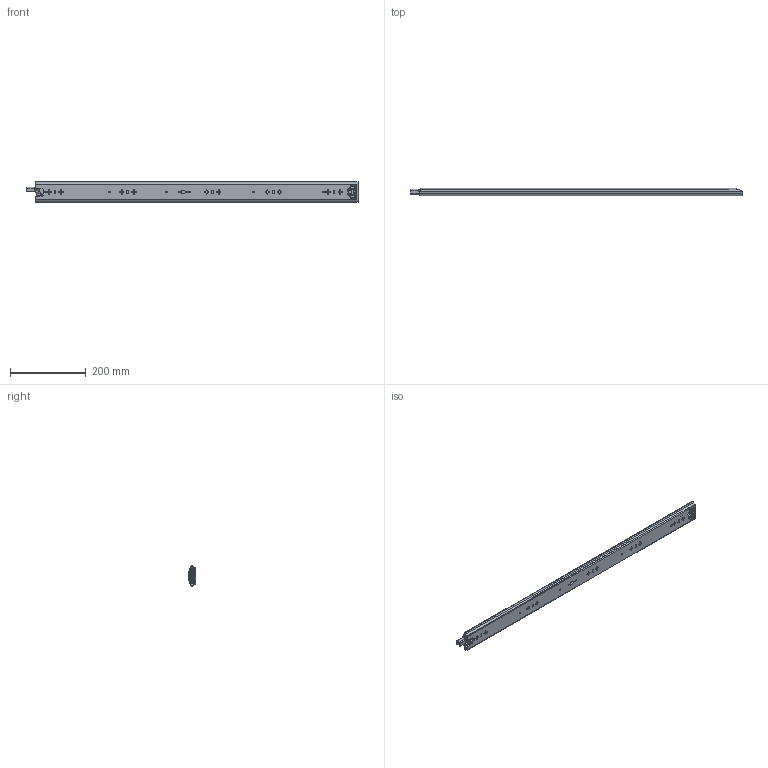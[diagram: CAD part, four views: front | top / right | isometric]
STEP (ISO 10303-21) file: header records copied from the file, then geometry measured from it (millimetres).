
FILE_DESCRIPTION((''),'2;1');
FILE_NAME('1053-3S-34YOU_ASM','2023-04-12T',('jishu015'),(''),'PRO/ENGINEER BY PARAMETRIC TECHNOLOGY CORPORATION, 2010280','PRO/ENGINEER BY PARAMETRIC TECHNOLOGY CORPORATION, 2010280','');
FILE_SCHEMA(('CONFIG_CONTROL_DESIGN'));
Products named in the file (20): 1053-02-18WAIKE____________; 1053WEIJIAO____________; 1053-3S-24WAIKE_____________ASM; 1053ZHUTIAO-175____________; 53-5-6GANZHU____________; 1053ZHUTIAO-175MM_____________ASM; 1053-02-18ZHONGGUI____________; ZHONGGUIPEIJIAN__________; ZHONGGUISUOKOU__________; 1053-02-18ZHONGGUI_____________ASM; 1053XIAOZHUJIA-14GE____________; 1053XIAOZHUJIA-14GE_____________ASM; 1053-02-18NEIGUI____________; DAOPIAN________; PIAN________; 1053-3SBANJI123_______; JIAO-11_______; 50XINSUOKOU11______; 1053-02-18NEIGUI_____________ASM; 1053-3S-34YOU_ASM
Assembly tree (94 placements, depth 3):
  1053-3S-34YOU_ASM
    1053-3S-24WAIKE_____________ASM
      1053-02-18WAIKE____________
      1053WEIJIAO____________
    1053ZHUTIAO-175MM_____________ASM  x2
      1053ZHUTIAO-175____________
      53-5-6GANZHU____________
    1053-02-18ZHONGGUI_____________ASM
      1053-02-18ZHONGGUI____________
      ZHONGGUIPEIJIAN__________
      ZHONGGUISUOKOU__________
    1053XIAOZHUJIA-14GE_____________ASM
      1053XIAOZHUJIA-14GE____________
      53-5-6GANZHU____________  x60
    1053-02-18NEIGUI_____________ASM
      1053-02-18NEIGUI____________
      DAOPIAN________
      PIAN________
      1053-3SBANJI123_______
      JIAO-11_______
      50XINSUOKOU11______
Bounding box: 875.42 x 18.7 x 53 mm (x, y, z)
Volume: 324008.6 mm3; surface area: 375624.9 mm2
Topology: 105 solids, 105 shells, 2652 faces, 7684 edges, 4797 vertices
Faces by surface type: cylinder 1156, plane 1066, sphere 188, bspline 117, cone 86, extrusion 23, torus 16
Entity records: 85755 total; most frequent: CARTESIAN_POINT 21378, ORIENTED_EDGE 13682, DIRECTION 13216, EDGE_CURVE 6841, AXIS2_PLACEMENT_3D 4572, VERTEX_POINT 4422, VECTOR 4072, LINE 4049
